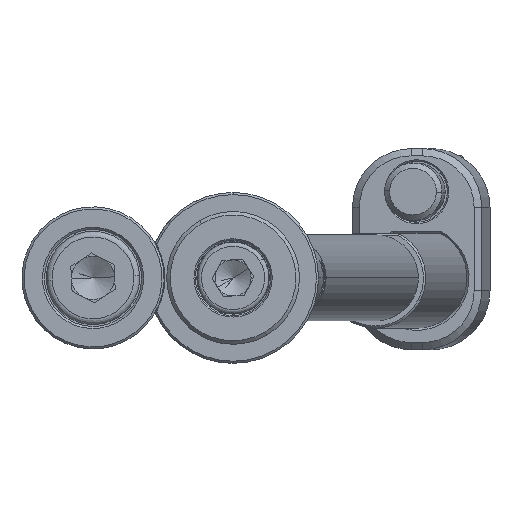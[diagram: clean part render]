
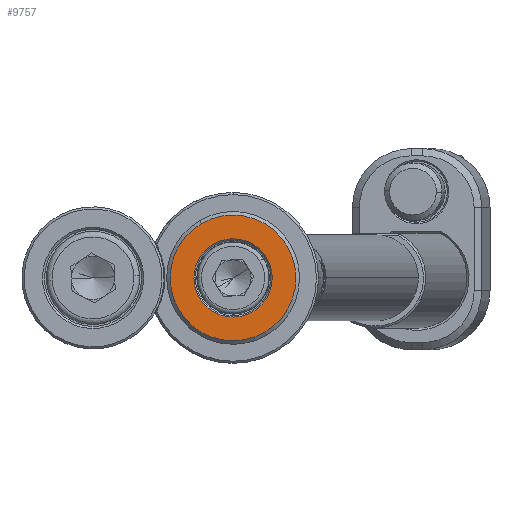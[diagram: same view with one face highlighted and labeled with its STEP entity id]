
A CAD part, front view. The second image highlights one B-rep face of the part: STEP entity #9757.
In plain terms, the highlighted planar face has unit normal (0, -1, 0).
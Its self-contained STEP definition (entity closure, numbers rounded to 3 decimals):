
#768 = CARTESIAN_POINT ( 'NONE',  ( 0., -4., 0. ) ) ;
#1187 = PLANE ( 'NONE',  #12946 ) ;
#1368 = ORIENTED_EDGE ( 'NONE', *, *, #1871, .T. ) ;
#1803 = CIRCLE ( 'NONE', #5954, 5.45 ) ;
#1839 = DIRECTION ( 'NONE',  ( -0.505, 0., 0.863 ) ) ;
#1871 = EDGE_CURVE ( 'NONE', #8432, #12801, #2948, .T. ) ;
#2139 = CARTESIAN_POINT ( 'NONE',  ( -4.42, -4., 7.552 ) ) ;
#2556 = CARTESIAN_POINT ( 'NONE',  ( 0., -4., 0. ) ) ;
#2781 = VERTEX_POINT ( 'NONE', #10877 ) ;
#2785 = CIRCLE ( 'NONE', #10925, 8.75 ) ;
#2948 = CIRCLE ( 'NONE', #8043, 8.75 ) ;
#3235 = ORIENTED_EDGE ( 'NONE', *, *, #10670, .T. ) ;
#3276 = ORIENTED_EDGE ( 'NONE', *, *, #9669, .T. ) ;
#3493 = DIRECTION ( 'NONE',  ( -0.505, 0., 0.863 ) ) ;
#4483 = DIRECTION ( 'NONE',  ( 0., -1., 0. ) ) ;
#4806 = CARTESIAN_POINT ( 'NONE',  ( -4.531, -4., -2.652 ) ) ;
#5142 = CIRCLE ( 'NONE', #7220, 5.45 ) ;
#5954 = AXIS2_PLACEMENT_3D ( 'NONE', #7928, #7708, #3493 ) ;
#6092 = DIRECTION ( 'NONE',  ( 0., 1., 0. ) ) ;
#6189 = DIRECTION ( 'NONE',  ( 0., -1., 0. ) ) ;
#6263 = CARTESIAN_POINT ( 'NONE',  ( -2.753, -4., 4.704 ) ) ;
#7044 = DIRECTION ( 'NONE',  ( -0.505, 0., 0.863 ) ) ;
#7220 = AXIS2_PLACEMENT_3D ( 'NONE', #768, #12892, #10720 ) ;
#7708 = DIRECTION ( 'NONE',  ( 0., 1., 0. ) ) ;
#7725 = CARTESIAN_POINT ( 'NONE',  ( 4.42, -4., -7.552 ) ) ;
#7928 = CARTESIAN_POINT ( 'NONE',  ( 0., -4., 0. ) ) ;
#8043 = AXIS2_PLACEMENT_3D ( 'NONE', #13300, #4483, #8936 ) ;
#8432 = VERTEX_POINT ( 'NONE', #7725 ) ;
#8727 = VERTEX_POINT ( 'NONE', #6263 ) ;
#8936 = DIRECTION ( 'NONE',  ( -0.505, 0., 0.863 ) ) ;
#9493 = EDGE_CURVE ( 'NONE', #12801, #8432, #2785, .T. ) ;
#9669 = EDGE_CURVE ( 'NONE', #2781, #8727, #1803, .T. ) ;
#9757 = ADVANCED_FACE ( 'NONE', ( #11086, #11152 ), #1187, .F. ) ;
#10670 = EDGE_CURVE ( 'NONE', #8727, #2781, #5142, .T. ) ;
#10720 = DIRECTION ( 'NONE',  ( -0.505, 0., 0.863 ) ) ;
#10877 = CARTESIAN_POINT ( 'NONE',  ( 2.753, -4., -4.704 ) ) ;
#10925 = AXIS2_PLACEMENT_3D ( 'NONE', #2556, #6189, #1839 ) ;
#11086 = FACE_BOUND ( 'NONE', #12683, .T. ) ;
#11152 = FACE_OUTER_BOUND ( 'NONE', #13381, .T. ) ;
#12683 = EDGE_LOOP ( 'NONE', ( #3276, #3235 ) ) ;
#12801 = VERTEX_POINT ( 'NONE', #2139 ) ;
#12892 = DIRECTION ( 'NONE',  ( 0., 1., 0. ) ) ;
#12946 = AXIS2_PLACEMENT_3D ( 'NONE', #4806, #6092, #7044 ) ;
#13300 = CARTESIAN_POINT ( 'NONE',  ( 0., -4., 0. ) ) ;
#13348 = ORIENTED_EDGE ( 'NONE', *, *, #9493, .T. ) ;
#13381 = EDGE_LOOP ( 'NONE', ( #13348, #1368 ) ) ;
